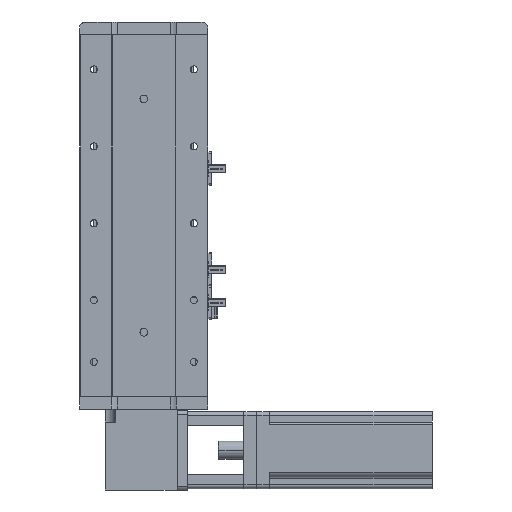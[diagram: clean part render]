
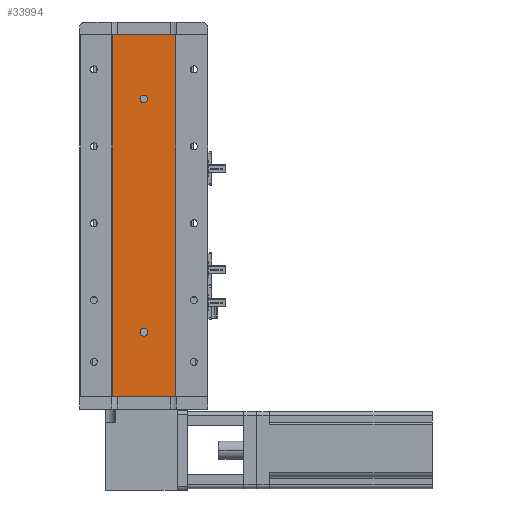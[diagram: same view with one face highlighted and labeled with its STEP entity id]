
A CAD part, left-side view. The second image highlights one B-rep face of the part: STEP entity #33994.
In plain terms, the highlighted planar face has unit normal (-1, 0, 0).
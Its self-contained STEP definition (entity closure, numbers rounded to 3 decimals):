
#36 = VERTEX_POINT ( 'NONE', #43179 ) ;
#857 = CARTESIAN_POINT ( 'NONE',  ( -18.926, 24.785, 282. ) ) ;
#973 = VERTEX_POINT ( 'NONE', #35189 ) ;
#1691 = DIRECTION ( 'NONE',  ( -1., 0., 0. ) ) ;
#2754 = VECTOR ( 'NONE', #21198, 1000. ) ;
#3409 = CARTESIAN_POINT ( 'NONE',  ( -18.926, 24.785, 0. ) ) ;
#3917 = CIRCLE ( 'NONE', #9968, 3. ) ;
#4094 = FACE_BOUND ( 'NONE', #17487, .T. ) ;
#4243 = CARTESIAN_POINT ( 'NONE',  ( -18.926, -24.785, 282. ) ) ;
#4575 = CARTESIAN_POINT ( 'NONE',  ( -18.926, 24.785, 282. ) ) ;
#4653 = EDGE_CURVE ( 'NONE', #36, #43973, #30138, .T. ) ;
#6455 = CIRCLE ( 'NONE', #22833, 3. ) ;
#6920 = EDGE_LOOP ( 'NONE', ( #38192, #44023 ) ) ;
#7704 = CARTESIAN_POINT ( 'NONE',  ( -18.926, 0., 232. ) ) ;
#7812 = DIRECTION ( 'NONE',  ( -1., 0., 0. ) ) ;
#8031 = DIRECTION ( 'NONE',  ( 0., 0., -1. ) ) ;
#9532 = ORIENTED_EDGE ( 'NONE', *, *, #34497, .F. ) ;
#9859 = EDGE_CURVE ( 'NONE', #41610, #39247, #25289, .T. ) ;
#9968 = AXIS2_PLACEMENT_3D ( 'NONE', #7704, #31740, #11148 ) ;
#11148 = DIRECTION ( 'NONE',  ( 0., 0., 1. ) ) ;
#11754 = EDGE_CURVE ( 'NONE', #23289, #36, #24466, .T. ) ;
#13730 = DIRECTION ( 'NONE',  ( 0., -1., 0. ) ) ;
#14151 = DIRECTION ( 'NONE',  ( 0., -1., 0. ) ) ;
#14290 = FACE_BOUND ( 'NONE', #6920, .T. ) ;
#15819 = VECTOR ( 'NONE', #13730, 1000. ) ;
#16842 = CARTESIAN_POINT ( 'NONE',  ( -18.926, 0., 50. ) ) ;
#17020 = VERTEX_POINT ( 'NONE', #21432 ) ;
#17487 = EDGE_LOOP ( 'NONE', ( #39954, #9532 ) ) ;
#18189 = ORIENTED_EDGE ( 'NONE', *, *, #4653, .F. ) ;
#20293 = DIRECTION ( 'NONE',  ( 0., 0., 1. ) ) ;
#21198 = DIRECTION ( 'NONE',  ( 0., 0., -1. ) ) ;
#21231 = EDGE_LOOP ( 'NONE', ( #41323, #18189, #43731, #38012 ) ) ;
#21432 = CARTESIAN_POINT ( 'NONE',  ( -18.926, 0., 235. ) ) ;
#21972 = VECTOR ( 'NONE', #31745, 1000. ) ;
#22259 = CARTESIAN_POINT ( 'NONE',  ( -18.926, 0., 50. ) ) ;
#22409 = FACE_OUTER_BOUND ( 'NONE', #21231, .T. ) ;
#22833 = AXIS2_PLACEMENT_3D ( 'NONE', #28393, #7812, #31851 ) ;
#23289 = VERTEX_POINT ( 'NONE', #24974 ) ;
#23393 = CARTESIAN_POINT ( 'NONE',  ( -18.926, 0., 47. ) ) ;
#23413 = VECTOR ( 'NONE', #14151, 1000. ) ;
#23415 = AXIS2_PLACEMENT_3D ( 'NONE', #16842, #40816, #20293 ) ;
#24466 = LINE ( 'NONE', #38141, #23413 ) ;
#24673 = CARTESIAN_POINT ( 'NONE',  ( -18.926, 24.785, 0. ) ) ;
#24801 = VERTEX_POINT ( 'NONE', #24673 ) ;
#24974 = CARTESIAN_POINT ( 'NONE',  ( -18.926, 24.785, 282. ) ) ;
#25289 = CIRCLE ( 'NONE', #27573, 3. ) ;
#25706 = DIRECTION ( 'NONE',  ( 0., 0., 1. ) ) ;
#27573 = AXIS2_PLACEMENT_3D ( 'NONE', #22259, #1691, #25706 ) ;
#28393 = CARTESIAN_POINT ( 'NONE',  ( -18.926, 0., 232. ) ) ;
#28599 = DIRECTION ( 'NONE',  ( 1., 0., 0. ) ) ;
#28818 = EDGE_CURVE ( 'NONE', #39247, #41610, #30958, .T. ) ;
#29988 = AXIS2_PLACEMENT_3D ( 'NONE', #4575, #28599, #8031 ) ;
#30138 = LINE ( 'NONE', #4243, #2754 ) ;
#30958 = CIRCLE ( 'NONE', #23415, 3. ) ;
#31084 = LINE ( 'NONE', #857, #21972 ) ;
#31219 = EDGE_CURVE ( 'NONE', #17020, #973, #3917, .T. ) ;
#31607 = CARTESIAN_POINT ( 'NONE',  ( -18.926, 0., 53. ) ) ;
#31740 = DIRECTION ( 'NONE',  ( -1., 0., 0. ) ) ;
#31745 = DIRECTION ( 'NONE',  ( 0., 0., -1. ) ) ;
#31851 = DIRECTION ( 'NONE',  ( 0., 0., 1. ) ) ;
#31900 = PLANE ( 'NONE',  #29988 ) ;
#32816 = EDGE_CURVE ( 'NONE', #23289, #24801, #31084, .T. ) ;
#33994 = ADVANCED_FACE ( 'NONE', ( #14290, #4094, #22409 ), #31900, .F. ) ;
#34497 = EDGE_CURVE ( 'NONE', #973, #17020, #6455, .T. ) ;
#35178 = LINE ( 'NONE', #3409, #15819 ) ;
#35189 = CARTESIAN_POINT ( 'NONE',  ( -18.926, 0., 229. ) ) ;
#36082 = CARTESIAN_POINT ( 'NONE',  ( -18.926, -24.785, 0. ) ) ;
#38012 = ORIENTED_EDGE ( 'NONE', *, *, #32816, .T. ) ;
#38141 = CARTESIAN_POINT ( 'NONE',  ( -18.926, 24.785, 282. ) ) ;
#38192 = ORIENTED_EDGE ( 'NONE', *, *, #9859, .F. ) ;
#39247 = VERTEX_POINT ( 'NONE', #23393 ) ;
#39954 = ORIENTED_EDGE ( 'NONE', *, *, #31219, .F. ) ;
#40816 = DIRECTION ( 'NONE',  ( -1., 0., 0. ) ) ;
#41323 = ORIENTED_EDGE ( 'NONE', *, *, #41460, .T. ) ;
#41460 = EDGE_CURVE ( 'NONE', #24801, #43973, #35178, .T. ) ;
#41610 = VERTEX_POINT ( 'NONE', #31607 ) ;
#43179 = CARTESIAN_POINT ( 'NONE',  ( -18.926, -24.785, 282. ) ) ;
#43731 = ORIENTED_EDGE ( 'NONE', *, *, #11754, .F. ) ;
#43973 = VERTEX_POINT ( 'NONE', #36082 ) ;
#44023 = ORIENTED_EDGE ( 'NONE', *, *, #28818, .F. ) ;
